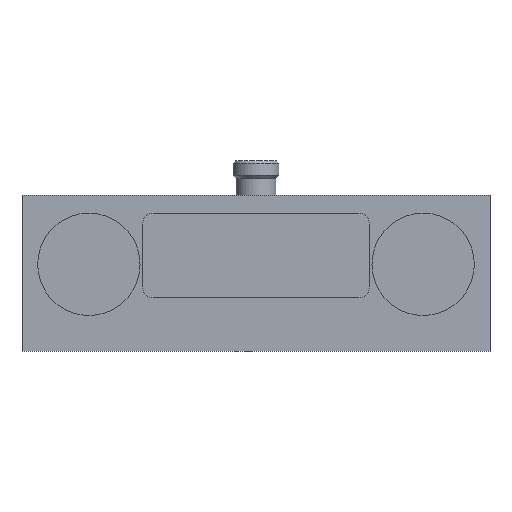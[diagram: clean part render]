
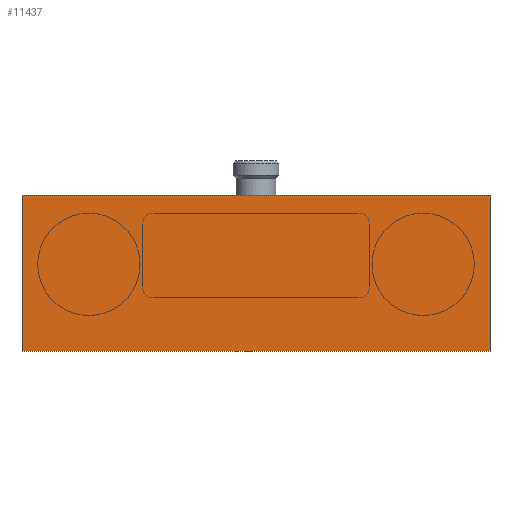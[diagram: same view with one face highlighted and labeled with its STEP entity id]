
A CAD part, front view. The second image highlights one B-rep face of the part: STEP entity #11437.
In plain terms, the highlighted planar face has unit normal (0, -1, 0).
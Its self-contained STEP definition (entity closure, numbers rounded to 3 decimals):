
#3028=DIRECTION('',(1.,0.,0.));
#3029=VECTOR('',#3028,210.);
#3030=CARTESIAN_POINT('',(-105.,0.,26.));
#3031=LINE('',#3030,#3029);
#3032=DIRECTION('',(0.,0.,-1.));
#3033=VECTOR('',#3032,70.);
#3034=CARTESIAN_POINT('',(105.,0.,26.));
#3035=LINE('',#3034,#3033);
#3036=DIRECTION('',(-1.,0.,0.));
#3037=VECTOR('',#3036,210.);
#3038=CARTESIAN_POINT('',(105.,0.,-44.));
#3039=LINE('',#3038,#3037);
#3040=DIRECTION('',(0.,0.,1.));
#3041=VECTOR('',#3040,70.);
#3042=CARTESIAN_POINT('',(-105.,0.,-44.));
#3043=LINE('',#3042,#3041);
#7671=CARTESIAN_POINT('',(-105.,0.,26.));
#7672=CARTESIAN_POINT('',(105.,0.,26.));
#7673=VERTEX_POINT('',#7671);
#7674=VERTEX_POINT('',#7672);
#7675=CARTESIAN_POINT('',(105.,0.,-44.));
#7676=VERTEX_POINT('',#7675);
#7677=CARTESIAN_POINT('',(-105.,0.,-44.));
#7678=VERTEX_POINT('',#7677);
#11426=CARTESIAN_POINT('',(-105.,0.,26.));
#11427=DIRECTION('',(0.,1.,0.));
#11428=DIRECTION('',(1.,0.,0.));
#11429=AXIS2_PLACEMENT_3D('',#11426,#11427,#11428);
#11430=PLANE('',#11429);
#11431=ORIENTED_EDGE('',*,*,#11372,.T.);
#11432=ORIENTED_EDGE('',*,*,#11393,.T.);
#11433=ORIENTED_EDGE('',*,*,#11407,.T.);
#11434=ORIENTED_EDGE('',*,*,#11420,.T.);
#11435=EDGE_LOOP('',(#11431,#11432,#11433,#11434));
#11436=FACE_OUTER_BOUND('',#11435,.F.);
#11437=ADVANCED_FACE('',(#11436),#11430,.F.);
#11372=EDGE_CURVE('',#7673,#7674,#3031,.T.);
#11393=EDGE_CURVE('',#7674,#7676,#3035,.T.);
#11407=EDGE_CURVE('',#7676,#7678,#3039,.T.);
#11420=EDGE_CURVE('',#7678,#7673,#3043,.T.);
